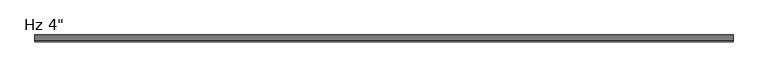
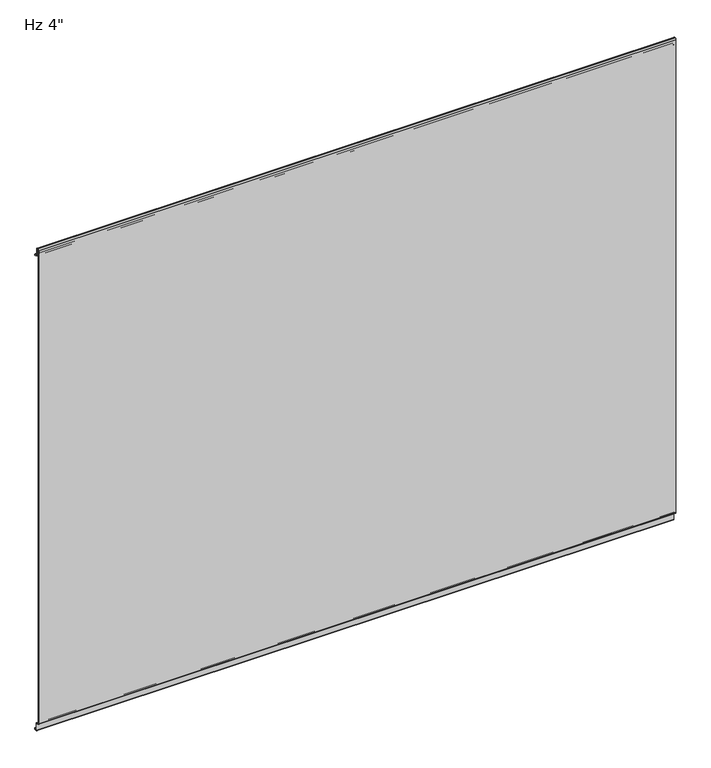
"""IFC4 building model written with IfcOpenShell, lengths in millimetres: plate geometry."""

from ifc_helpers import new_model, si_unit, frame, origin, place, context, project, spatial, polyline, circle_curve, source, transform, mapped, element, save
from ifc_brep_helpers import plane_surface, cylinder_surface, revolved_surface, advanced_brep


def plate_76d6c2d0(model_context):
    return source(origin(), model_context, "Body", "AdvancedBrep", [
        advanced_brep(
        [(-730.0, -98.6223811, 3.8501063), (-730.0, -96.3308685, 3.8501063), (-730.0, -92.3535232, -0.1272391), (-730.0, -92.3535232, -15.7237514), (-730.0, -91.765666, -16.3116086), (-730.0, -88.6941346, -16.3116086), (-730.0, -88.1062635, -15.7237374), (-730.0, -88.1062635, -13.3687064), (-730.0, -87.1062599, -13.3687064), (-730.0, -87.1062599, -15.7237419), (-730.0, -88.6941364, -17.3116185), (-730.0, -91.7656851, -17.3116185), (-730.0, -93.3535616, -15.7237419), (-730.0, -93.3535616, -0.1273159), (-730.0, -96.3308302, 2.8499526), (-730.0, -98.622714, 2.8499526), (-730.0, -101.5999825, 5.8272211), (-730.0, -101.6, 1150.8100652), (-730.0, -98.6227315, 1153.7873337), (-730.0, -97.5806329, 1153.7873337), (-730.0, -94.6033644, 1150.8100652), (-730.0, -94.6033644, 1136.6216801), (-730.0, -93.0154878, 1135.0338036), (-730.0, -88.6950697, 1135.0338036), (-730.0, -87.1066023, 1133.3929042), (-730.0, -87.1066023, 1131.0482432), (-730.0, -88.1060472, 1131.0482432), (-730.0, -88.1060472, 1133.4253599), (-730.0, -88.6950842, 1134.0338971), (-730.0, -93.0153166, 1134.0338971), (-730.0, -95.6030166, 1136.6215971), (-730.0, -95.6030166, 1150.8107568), (-730.0, -97.580978, 1152.7887182), (-730.0, -98.62341, 1152.7887182), (-730.0, -100.5992912, 1150.812837), (-730.0, -100.5992912, 5.8270163), (730.0, -98.6223811, 3.8501063), (730.0, -100.5992912, 5.8270163), (730.0, -100.5992912, 1150.812837), (730.0, -98.62341, 1152.7887182), (730.0, -97.580978, 1152.7887182), (730.0, -95.6030166, 1150.8107568), (730.0, -95.6030166, 1136.6215971), (730.0, -93.0153166, 1134.0338971), (730.0, -88.6950842, 1134.0338971), (730.0, -88.1060472, 1133.4253599), (730.0, -88.1060472, 1131.0482432), (730.0, -87.1066023, 1131.0482432), (730.0, -87.1066023, 1133.3929042), (730.0, -88.6950697, 1135.0338036), (730.0, -93.0154878, 1135.0338036), (730.0, -94.6033644, 1136.6216801), (730.0, -94.6033644, 1150.8100652), (730.0, -97.5806329, 1153.7873337), (730.0, -98.6227315, 1153.7873337), (730.0, -101.6, 1150.8100652), (730.0, -101.6, 5.8272211), (730.0, -98.622714, 2.8499526), (730.0, -96.3308302, 2.8499526), (730.0, -93.3535616, -0.1273159), (730.0, -93.3535616, -15.7237419), (730.0, -91.7656851, -17.3116185), (730.0, -88.6941364, -17.3116185), (730.0, -87.1062599, -15.7237419), (730.0, -87.1062599, -13.3687064), (730.0, -88.1062635, -13.3687064), (730.0, -88.1062635, -15.7237374), (730.0, -88.6941346, -16.3116086), (730.0, -91.765666, -16.3116086), (730.0, -92.3535232, -15.7237514), (730.0, -92.3535232, -0.1272391), (730.0, -96.3308685, 3.8501063)],
        [
            (0, 1),
            (1, 2, circle_curve(frame((-730.0, -96.3308685, -0.1272391), z_axis=(-1.0, 0.0, 0.0), x_axis=(0.0, 0.0, -1.0)), 3.9773454)),
            (2, 3),
            (3, 4, circle_curve(frame((-730.0, -91.765666, -15.7237514), z_axis=(1.0, 0.0, 0.0), x_axis=(0.0, 0.0, -1.0)), 0.5878572)),
            (4, 5),
            (5, 6, circle_curve(frame((-730.0, -88.6941346, -15.7237374), z_axis=(1.0, 0.0, 0.0), x_axis=(0.0, 0.0, -1.0)), 0.5878711)),
            (6, 7),
            (7, 8),
            (8, 9),
            (9, 10, circle_curve(frame((-730.0, -88.6941364, -15.7237419), z_axis=(-1.0, 0.0, 0.0), x_axis=(0.0, 0.0, -1.0)), 1.5878765)),
            (10, 11),
            (11, 12, circle_curve(frame((-730.0, -91.7656851, -15.7237419), z_axis=(-1.0, 0.0, 0.0), x_axis=(0.0, 0.0, -1.0)), 1.5878765)),
            (12, 13),
            (13, 14, circle_curve(frame((-730.0, -96.3308302, -0.1273159), z_axis=(1.0, 0.0, 0.0), x_axis=(0.0, 0.0, -1.0)), 2.9772685)),
            (14, 15),
            (15, 16, circle_curve(frame((-730.0, -98.622714, 5.8272211), z_axis=(-1.0, 0.0, 0.0), x_axis=(0.0, 0.0, -1.0)), 2.9772685)),
            (16, 17),
            (17, 18, circle_curve(frame((-730.0, -98.6227315, 1150.8100652), z_axis=(-1.0, 0.0, 0.0), x_axis=(0.0, 0.0, -1.0)), 2.9772685)),
            (18, 19),
            (19, 20, circle_curve(frame((-730.0, -97.5806329, 1150.8100652), z_axis=(-1.0, 0.0, 0.0), x_axis=(0.0, 0.0, -1.0)), 2.9772685)),
            (20, 21),
            (21, 22, circle_curve(frame((-730.0, -93.0154878, 1136.6216801), z_axis=(1.0, 0.0, 0.0), x_axis=(0.0, 0.0, -1.0)), 1.5878765)),
            (22, 23),
            (23, 24, circle_curve(frame((-730.0, -88.6950697, 1133.4444985), z_axis=(-1.0, 0.0, 0.0), x_axis=(0.0, 0.0, -1.0)), 1.5893051)),
            (24, 25),
            (25, 26),
            (26, 27),
            (27, 28, circle_curve(frame((-730.0, -88.6950842, 1133.4445477), z_axis=(1.0, 0.0, 0.0), x_axis=(0.0, 0.0, -1.0)), 0.5893495)),
            (28, 29),
            (29, 30, circle_curve(frame((-730.0, -93.0153166, 1136.6215971), z_axis=(-1.0, 0.0, 0.0), x_axis=(0.0, 0.0, -1.0)), 2.5877)),
            (30, 31),
            (31, 32, circle_curve(frame((-730.0, -97.580978, 1150.8107568), z_axis=(1.0, 0.0, 0.0), x_axis=(0.0, 0.0, -1.0)), 1.9779614)),
            (32, 33),
            (33, 34, circle_curve(frame((-730.0, -98.62341, 1150.812837), z_axis=(1.0, 0.0, 0.0), x_axis=(0.0, 0.0, -1.0)), 1.9758812)),
            (34, 35),
            (35, 0, circle_curve(frame((-730.0, -98.6223811, 5.8270163), z_axis=(1.0, 0.0, 0.0), x_axis=(0.0, 0.0, -1.0)), 1.9769101)),
            (36, 37, circle_curve(frame((730.0, -98.6223811, 5.8270163), z_axis=(-1.0, 0.0, 0.0), x_axis=(0.0, 0.0, -1.0)), 1.9769101)),
            (37, 38),
            (38, 39, circle_curve(frame((730.0, -98.62341, 1150.812837), z_axis=(-1.0, 0.0, 0.0), x_axis=(0.0, 0.0, -1.0)), 1.9758812)),
            (39, 40),
            (40, 41, circle_curve(frame((730.0, -97.580978, 1150.8107568), z_axis=(-1.0, 0.0, 0.0), x_axis=(0.0, 0.0, -1.0)), 1.9779614)),
            (41, 42),
            (42, 43, circle_curve(frame((730.0, -93.0153166, 1136.6215971), z_axis=(1.0, 0.0, 0.0), x_axis=(0.0, 0.0, -1.0)), 2.5877)),
            (43, 44),
            (44, 45, circle_curve(frame((730.0, -88.6950842, 1133.4445477), z_axis=(-1.0, 0.0, 0.0), x_axis=(0.0, 0.0, -1.0)), 0.5893495)),
            (45, 46),
            (46, 47),
            (47, 48),
            (48, 49, circle_curve(frame((730.0, -88.6950697, 1133.4444985), z_axis=(1.0, 0.0, 0.0), x_axis=(0.0, 0.0, -1.0)), 1.5893051)),
            (49, 50),
            (50, 51, circle_curve(frame((730.0, -93.0154878, 1136.6216801), z_axis=(-1.0, 0.0, 0.0), x_axis=(0.0, 0.0, -1.0)), 1.5878765)),
            (51, 52),
            (52, 53, circle_curve(frame((730.0, -97.5806329, 1150.8100652), z_axis=(1.0, 0.0, 0.0), x_axis=(0.0, 0.0, -1.0)), 2.9772685)),
            (53, 54),
            (54, 55, circle_curve(frame((730.0, -98.6227315, 1150.8100652), z_axis=(1.0, 0.0, 0.0), x_axis=(0.0, 0.0, -1.0)), 2.9772685)),
            (55, 56),
            (56, 57, circle_curve(frame((730.0, -98.622714, 5.8272211), z_axis=(1.0, 0.0, 0.0), x_axis=(0.0, 0.0, -1.0)), 2.9772685)),
            (57, 58),
            (58, 59, circle_curve(frame((730.0, -96.3308302, -0.1273159), z_axis=(-1.0, 0.0, 0.0), x_axis=(0.0, 0.0, -1.0)), 2.9772685)),
            (59, 60),
            (60, 61, circle_curve(frame((730.0, -91.7656851, -15.7237419), z_axis=(1.0, 0.0, 0.0), x_axis=(0.0, 0.0, -1.0)), 1.5878765)),
            (61, 62),
            (62, 63, circle_curve(frame((730.0, -88.6941364, -15.7237419), z_axis=(1.0, 0.0, 0.0), x_axis=(0.0, 0.0, -1.0)), 1.5878765)),
            (63, 64),
            (64, 65),
            (65, 66),
            (66, 67, circle_curve(frame((730.0, -88.6941346, -15.7237374), z_axis=(-1.0, 0.0, 0.0), x_axis=(0.0, 0.0, -1.0)), 0.5878711)),
            (67, 68),
            (68, 69, circle_curve(frame((730.0, -91.765666, -15.7237514), z_axis=(-1.0, 0.0, 0.0), x_axis=(0.0, 0.0, -1.0)), 0.5878572)),
            (69, 70),
            (70, 71, circle_curve(frame((730.0, -96.3308685, -0.1272391), z_axis=(1.0, 0.0, 0.0), x_axis=(0.0, 0.0, -1.0)), 3.9773454)),
            (71, 36),
            (35, 37),
            (36, 0),
            (34, 38),
            (33, 39),
            (32, 40),
            (31, 41),
            (30, 42),
            (29, 43),
            (28, 44),
            (27, 45),
            (26, 46),
            (25, 47),
            (24, 48),
            (23, 49),
            (22, 50),
            (21, 51),
            (20, 52),
            (19, 53),
            (18, 54),
            (17, 55),
            (16, 56),
            (15, 57),
            (14, 58),
            (13, 59),
            (12, 60),
            (11, 61),
            (10, 62),
            (9, 63),
            (8, 64),
            (7, 65),
            (6, 66),
            (5, 67),
            (4, 68),
            (3, 69),
            (2, 70),
            (1, 71),
        ],
        [
            plane_surface(frame((-730.0, -101.6, 576.2625), z_axis=(-1.0, 0.0, 0.0), x_axis=(0.0, -1.0, 0.0))),
            plane_surface(frame((730.0, -101.6, 576.2625), z_axis=(1.0, 0.0, 0.0), x_axis=(0.0, -1.0, 0.0))),
            revolved_surface(polyline([(730.0, -98.6223811, 3.8501062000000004), (-730.0, -98.6223811, 3.8501062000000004)]), (-730.0, -98.6223811, 5.8270163), (1.0, 0.0, 0.0)),
            plane_surface(frame((-730.0, -100.5992912, 5.8270163), z_axis=(0.0, 1.0, 0.0), x_axis=(1.0, 0.0, 0.0))),
            revolved_surface(polyline([(730.0, -98.62341, 1148.8369558), (-730.0, -98.62341, 1148.8369558)]), (-730.0, -98.62341, 1150.812837), (1.0, 0.0, 0.0)),
            plane_surface(frame((-730.0, -98.62341, 1152.7887182), z_axis=(0.0, 0.0, -1.0), x_axis=(1.0, 0.0, 0.0))),
            revolved_surface(polyline([(730.0, -97.580978, 1148.8327954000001), (-730.0, -97.580978, 1148.8327954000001)]), (-730.0, -97.580978, 1150.8107568), (1.0, 0.0, 0.0)),
            plane_surface(frame((-730.0, -95.6030166, 1150.8107568), z_axis=(0.0, -1.0, 0.0), x_axis=(1.0, 0.0, 0.0))),
            cylinder_surface(frame((-730.0, -93.0153166, 1136.6215971), z_axis=(-1.0, 0.0, 0.0), x_axis=(0.0, 0.0, -1.0)), 2.5877),
            plane_surface(frame((-730.0, -93.0153166, 1134.0338971), z_axis=(0.0, 0.0, -1.0), x_axis=(1.0, 0.0, 0.0))),
            revolved_surface(polyline([(730.0, -88.6950842, 1132.8551982), (-730.0, -88.6950842, 1132.8551982)]), (-730.0, -88.6950842, 1133.4445477), (1.0, 0.0, 0.0)),
            plane_surface(frame((-730.0, -88.1060472, 1133.4253599), z_axis=(0.0, -1.0, 0.0), x_axis=(1.0, 0.0, 0.0))),
            plane_surface(frame((-730.0, -88.1060472, 1131.0482432), z_axis=(0.0, 0.0, -1.0), x_axis=(1.0, 0.0, 0.0))),
            plane_surface(frame((-730.0, -87.1066023, 1131.0482432), z_axis=(0.0, 1.0, 0.0), x_axis=(1.0, 0.0, 0.0))),
            cylinder_surface(frame((-730.0, -88.6950697, 1133.4444985), z_axis=(-1.0, 0.0, 0.0), x_axis=(0.0, 0.0, -1.0)), 1.5893051),
            plane_surface(frame((-730.0, -88.6950697, 1135.0338036), z_axis=(0.0, 0.0, 1.0), x_axis=(1.0, 0.0, 0.0))),
            revolved_surface(polyline([(730.0, -93.0154878, 1135.0338036), (-730.0, -93.0154878, 1135.0338036)]), (-730.0, -93.0154878, 1136.6216801), (1.0, 0.0, 0.0)),
            plane_surface(frame((-730.0, -94.6033644, 1136.6216801), z_axis=(0.0, 1.0, 0.0), x_axis=(1.0, 0.0, 0.0))),
            cylinder_surface(frame((-730.0, -97.5806329, 1150.8100652), z_axis=(-1.0, 0.0, 0.0), x_axis=(0.0, 0.0, -1.0)), 2.9772685),
            plane_surface(frame((-730.0, -97.5806329, 1153.7873337), z_axis=(0.0, 0.0, 1.0), x_axis=(1.0, 0.0, 0.0))),
            cylinder_surface(frame((-730.0, -98.6227315, 1150.8100652), z_axis=(-1.0, 0.0, 0.0), x_axis=(0.0, 0.0, -1.0)), 2.9772685),
            plane_surface(frame((-730.0, -101.6, 1150.8100652), z_axis=(0.0, -1.0, 0.0), x_axis=(1.0, 0.0, 0.0))),
            cylinder_surface(frame((-730.0, -98.622714, 5.8272211), z_axis=(-1.0, 0.0, 0.0), x_axis=(0.0, 0.0, -1.0)), 2.9772685),
            plane_surface(frame((-730.0, -98.622714, 2.8499526), z_axis=(0.0, 0.0, -1.0), x_axis=(1.0, 0.0, 0.0))),
            revolved_surface(polyline([(730.0, -96.3308302, -3.1045844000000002), (-730.0, -96.3308302, -3.1045844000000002)]), (-730.0, -96.3308302, -0.1273159), (1.0, 0.0, 0.0)),
            plane_surface(frame((-730.0, -93.3535616, -0.1273159), z_axis=(0.0, -1.0, 0.0), x_axis=(1.0, 0.0, 0.0))),
            cylinder_surface(frame((-730.0, -91.7656851, -15.7237419), z_axis=(-1.0, 0.0, 0.0), x_axis=(0.0, 0.0, -1.0)), 1.5878765),
            plane_surface(frame((-730.0, -91.7656851, -17.3116185), z_axis=(0.0, 0.0, -1.0), x_axis=(1.0, 0.0, 0.0))),
            cylinder_surface(frame((-730.0, -88.6941364, -15.7237419), z_axis=(-1.0, 0.0, 0.0), x_axis=(0.0, 0.0, -1.0)), 1.5878765),
            plane_surface(frame((-730.0, -87.1062599, -15.7237419), z_axis=(0.0, 1.0, 0.0), x_axis=(1.0, 0.0, 0.0))),
            plane_surface(frame((-730.0, -87.1062599, -13.3687064), z_axis=(0.0, 0.0, 1.0), x_axis=(1.0, 0.0, 0.0))),
            plane_surface(frame((-730.0, -88.1062635, -13.3687064), z_axis=(0.0, -1.0, 0.0), x_axis=(1.0, 0.0, 0.0))),
            revolved_surface(polyline([(730.0, -88.6941346, -16.3116085), (-730.0, -88.6941346, -16.3116085)]), (-730.0, -88.6941346, -15.7237374), (1.0, 0.0, 0.0)),
            plane_surface(frame((-730.0, -88.6941346, -16.3116086), z_axis=(0.0, 0.0, 1.0), x_axis=(1.0, 0.0, 0.0))),
            revolved_surface(polyline([(730.0, -91.765666, -16.3116086), (-730.0, -91.765666, -16.3116086)]), (-730.0, -91.765666, -15.7237514), (1.0, 0.0, 0.0)),
            plane_surface(frame((-730.0, -92.3535232, -15.7237514), z_axis=(0.0, 1.0, 0.0), x_axis=(1.0, 0.0, 0.0))),
            cylinder_surface(frame((-730.0, -96.3308685, -0.1272391), z_axis=(-1.0, 0.0, 0.0), x_axis=(0.0, 0.0, -1.0)), 3.9773454),
            plane_surface(frame((-730.0, -96.3308685, 3.8501063), z_axis=(0.0, 0.0, 1.0), x_axis=(1.0, 0.0, 0.0))),
        ],
        [
            (0, [[1, 2, 3, 4, 5, 6, 7, 8, 9, 10, 11, 12, 13, 14, 15, 16, 17, 18, 19, 20, 21, 22, 23, 24, 25, 26, 27, 28, 29, 30, 31, 32, 33, 34, 35, 36]]),
            (1, [[37, 38, 39, 40, 41, 42, 43, 44, 45, 46, 47, 48, 49, 50, 51, 52, 53, 54, 55, 56, 57, 58, 59, 60, 61, 62, 63, 64, 65, 66, 67, 68, 69, 70, 71, 72]]),
            (2, [[73, -37, 74, -36]]),
            (3, [[75, -38, -73, -35]]),
            (4, [[76, -39, -75, -34]]),
            (5, [[77, -40, -76, -33]]),
            (6, [[78, -41, -77, -32]]),
            (7, [[79, -42, -78, -31]]),
            (8, [[80, -43, -79, -30]]),
            (9, [[81, -44, -80, -29]]),
            (10, [[82, -45, -81, -28]]),
            (11, [[83, -46, -82, -27]]),
            (12, [[84, -47, -83, -26]]),
            (13, [[85, -48, -84, -25]]),
            (14, [[86, -49, -85, -24]]),
            (15, [[87, -50, -86, -23]]),
            (16, [[88, -51, -87, -22]]),
            (17, [[89, -52, -88, -21]]),
            (18, [[90, -53, -89, -20]]),
            (19, [[91, -54, -90, -19]]),
            (20, [[92, -55, -91, -18]]),
            (21, [[93, -56, -92, -17]]),
            (22, [[94, -57, -93, -16]]),
            (23, [[95, -58, -94, -15]]),
            (24, [[96, -59, -95, -14]]),
            (25, [[97, -60, -96, -13]]),
            (26, [[98, -61, -97, -12]]),
            (27, [[99, -62, -98, -11]]),
            (28, [[100, -63, -99, -10]]),
            (29, [[101, -64, -100, -9]]),
            (30, [[102, -65, -101, -8]]),
            (31, [[103, -66, -102, -7]]),
            (32, [[104, -67, -103, -6]]),
            (33, [[105, -68, -104, -5]]),
            (34, [[106, -69, -105, -4]]),
            (35, [[107, -70, -106, -3]]),
            (36, [[108, -71, -107, -2]]),
            (37, [[-74, -72, -108, -1]]),
        ],
    ),
    ])


if __name__ == "__main__":
    model = new_model("IFC4")
    model_context = context("Model", 3, world=origin())
    ifc_project = project(units=[si_unit("LENGTHUNIT", "METRE", prefix="MILLI")], contexts=[model_context])
    site = spatial("IfcSite", under=ifc_project)
    building = spatial("IfcBuilding", under=site)
    placement = place(None, origin())
    plate_shape = plate_76d6c2d0(model_context)
    element("IfcPlate", 1, ObjectType="KIP-SLI-FLI-R19-CP-Hz-FL_SL : Hz 4\"", at=placement, inside=building, context=model_context, shape_type="MappedRepresentation", body=[
        mapped(plate_shape, transform((0.0, 0.0, 0.0), x_axis=(1.0, 0.0, 0.0), y_axis=(0.0, 1.0, 0.0), z_axis=(0.0, 0.0, 1.0))),
    ])
    save(model, "model.ifc")
